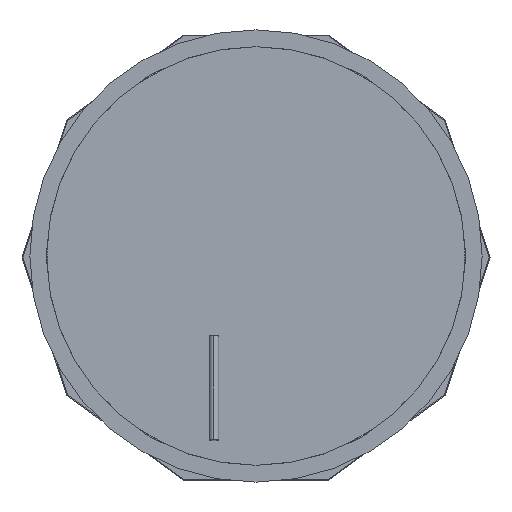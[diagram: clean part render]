
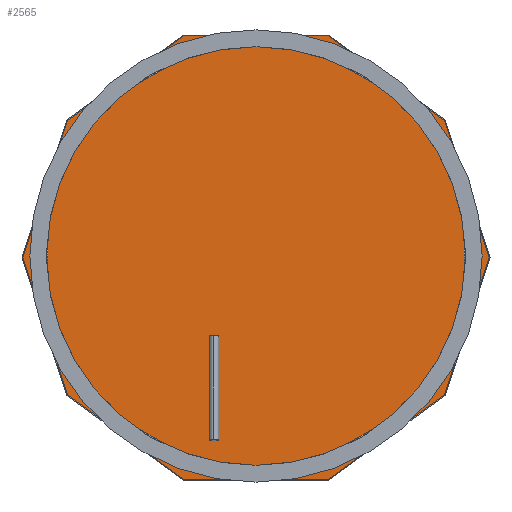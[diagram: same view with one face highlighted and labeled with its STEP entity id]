
A CAD part, front view. The second image highlights one B-rep face of the part: STEP entity #2565.
In plain terms, the highlighted planar face has unit normal (0, -1, 0).
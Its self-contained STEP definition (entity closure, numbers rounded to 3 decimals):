
#2011=DIRECTION('',(-0.309,0.,-0.951));
#2012=VECTOR('',#2011,342.465);
#2013=CARTESIAN_POINT('',(-448.293,52.,321.704));
#2014=LINE('',#2013,#2012);
#2019=DIRECTION('',(0.309,0.,-0.951));
#2020=VECTOR('',#2019,342.465);
#2021=CARTESIAN_POINT('',(-554.121,52.,-4.));
#2022=LINE('',#2021,#2020);
#2027=DIRECTION('',(0.809,0.,-0.588));
#2028=VECTOR('',#2027,342.465);
#2029=CARTESIAN_POINT('',(-448.293,52.,-329.704));
#2030=LINE('',#2029,#2028);
#2035=DIRECTION('',(1.,0.,0.));
#2036=VECTOR('',#2035,342.465);
#2037=CARTESIAN_POINT('',(-171.233,52.,-531.));
#2038=LINE('',#2037,#2036);
#2043=DIRECTION('',(0.809,0.,0.588));
#2044=VECTOR('',#2043,342.465);
#2045=CARTESIAN_POINT('',(171.233,52.,-531.));
#2046=LINE('',#2045,#2044);
#2051=DIRECTION('',(0.309,0.,0.951));
#2052=VECTOR('',#2051,342.465);
#2053=CARTESIAN_POINT('',(448.293,52.,-329.704));
#2054=LINE('',#2053,#2052);
#2059=DIRECTION('',(-0.309,0.,0.951));
#2060=VECTOR('',#2059,342.465);
#2061=CARTESIAN_POINT('',(554.121,52.,-4.));
#2062=LINE('',#2061,#2060);
#2067=DIRECTION('',(-0.809,0.,0.588));
#2068=VECTOR('',#2067,342.465);
#2069=CARTESIAN_POINT('',(448.293,52.,321.704));
#2070=LINE('',#2069,#2068);
#2075=DIRECTION('',(-1.,0.,0.));
#2076=VECTOR('',#2075,342.465);
#2077=CARTESIAN_POINT('',(171.233,52.,523.));
#2078=LINE('',#2077,#2076);
#2083=DIRECTION('',(-0.809,0.,-0.588));
#2084=VECTOR('',#2083,342.465);
#2085=CARTESIAN_POINT('',(-171.233,52.,523.));
#2086=LINE('',#2085,#2084);
#2463=CARTESIAN_POINT('',(-554.121,52.,-4.));
#2464=CARTESIAN_POINT('',(-448.293,52.,-329.704));
#2465=VERTEX_POINT('',#2463);
#2466=VERTEX_POINT('',#2464);
#2467=CARTESIAN_POINT('',(-171.233,52.,-531.));
#2468=VERTEX_POINT('',#2467);
#2469=CARTESIAN_POINT('',(171.233,52.,-531.));
#2470=VERTEX_POINT('',#2469);
#2471=CARTESIAN_POINT('',(448.293,52.,-329.704));
#2472=VERTEX_POINT('',#2471);
#2473=CARTESIAN_POINT('',(554.121,52.,-4.));
#2474=VERTEX_POINT('',#2473);
#2475=CARTESIAN_POINT('',(448.293,52.,321.704));
#2476=VERTEX_POINT('',#2475);
#2477=CARTESIAN_POINT('',(171.233,52.,523.));
#2478=VERTEX_POINT('',#2477);
#2479=CARTESIAN_POINT('',(-171.233,52.,523.));
#2480=VERTEX_POINT('',#2479);
#2481=CARTESIAN_POINT('',(-448.293,52.,321.704));
#2482=VERTEX_POINT('',#2481);
#2539=CARTESIAN_POINT('',(0.,52.,0.));
#2540=DIRECTION('',(0.,1.,0.));
#2541=DIRECTION('',(1.,0.,0.));
#2542=AXIS2_PLACEMENT_3D('',#2539,#2540,#2541);
#2543=PLANE('',#2542);
#2545=ORIENTED_EDGE('',*,*,#2544,.F.);
#2546=ORIENTED_EDGE('',*,*,#2528,.F.);
#2548=ORIENTED_EDGE('',*,*,#2547,.F.);
#2550=ORIENTED_EDGE('',*,*,#2549,.F.);
#2552=ORIENTED_EDGE('',*,*,#2551,.F.);
#2554=ORIENTED_EDGE('',*,*,#2553,.F.);
#2556=ORIENTED_EDGE('',*,*,#2555,.F.);
#2558=ORIENTED_EDGE('',*,*,#2557,.F.);
#2560=ORIENTED_EDGE('',*,*,#2559,.F.);
#2562=ORIENTED_EDGE('',*,*,#2561,.F.);
#2563=EDGE_LOOP('',(#2545,#2546,#2548,#2550,#2552,#2554,#2556,#2558,#2560,
#2562));
#2564=FACE_OUTER_BOUND('',#2563,.F.);
#2528=EDGE_CURVE('',#2482,#2465,#2014,.T.);
#2544=EDGE_CURVE('',#2465,#2466,#2022,.T.);
#2547=EDGE_CURVE('',#2480,#2482,#2086,.T.);
#2549=EDGE_CURVE('',#2478,#2480,#2078,.T.);
#2551=EDGE_CURVE('',#2476,#2478,#2070,.T.);
#2553=EDGE_CURVE('',#2474,#2476,#2062,.T.);
#2555=EDGE_CURVE('',#2472,#2474,#2054,.T.);
#2557=EDGE_CURVE('',#2470,#2472,#2046,.T.);
#2559=EDGE_CURVE('',#2468,#2470,#2038,.T.);
#2561=EDGE_CURVE('',#2466,#2468,#2030,.T.);
#2565=ADVANCED_FACE('',(#2564),#2543,.F.);
